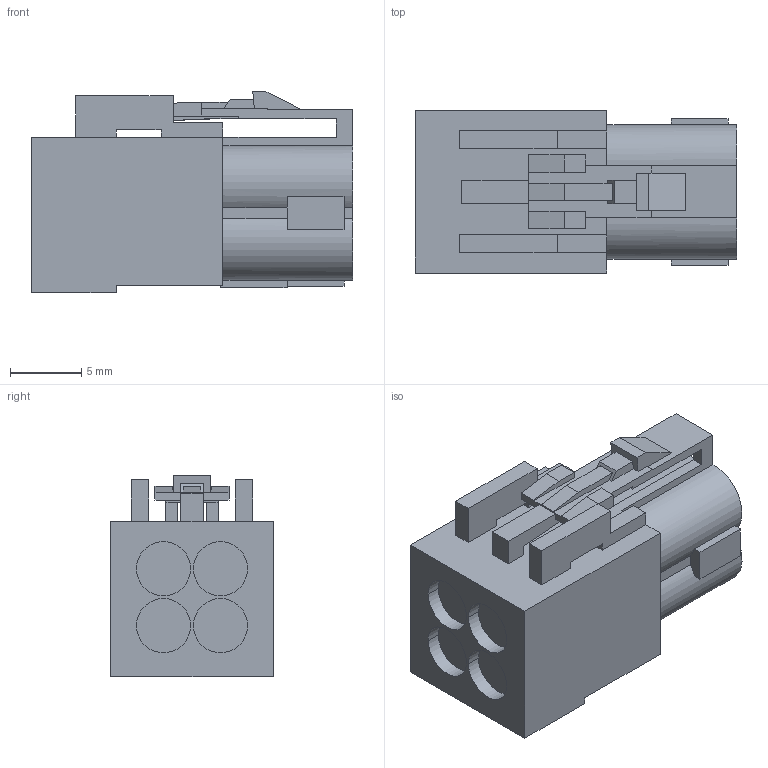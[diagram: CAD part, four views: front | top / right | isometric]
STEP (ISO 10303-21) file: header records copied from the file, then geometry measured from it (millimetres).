
FILE_DESCRIPTION(('CATIA V5 STEP','CAx-IF Rec.Pracs.--- Model Styling and Organization---1.5--- 2016-08-15','CAx-IF Rec.Pracs.---Supplemental Geometry---1.0---2011-11-01','CAx-IF Rec.Pracs.--- Composite Materials ---1.1---2010-07-15'),'2;1');
FILE_NAME('\\fss02.ad.sws.co.jp\fs100070\事務・購入\特命業務\特-35ｰ部品総合カタログメンテナンス\26年度\WEBカタログ用3D\260612_webカタログ新規登録用簡易3D\モデル保存場所\HFC5シリーズ\6099-1555.stp','2026-06-24T10:07:55+00:00',('none'),('none'),'CATIA Version 5-6 Release 2022 SP2 HF23','CATIA V5 STEP AP214 v2','none');
FILE_SCHEMA(('AUTOMOTIVE_DESIGN { 1 0 10303 214 1 1 1 1 }'));
Length unit declared in the file: millimetre
Products named in the file (1): 6099-1555
Bounding box: 22.55 x 11.4 x 14.17 mm (x, y, z)
Volume: 2457.1 mm3; surface area: 1659.6 mm2
Topology: 1 solids, 1 shells, 153 faces, 439 edges, 300 vertices
Faces by surface type: plane 116, cylinder 37
Entity records: 4759 total; most frequent: ORIENTED_EDGE 878, CARTESIAN_POINT 868, DIRECTION 654, EDGE_CURVE 439, VECTOR 334, LINE 334, VERTEX_POINT 300, AXIS2_PLACEMENT_3D 211
